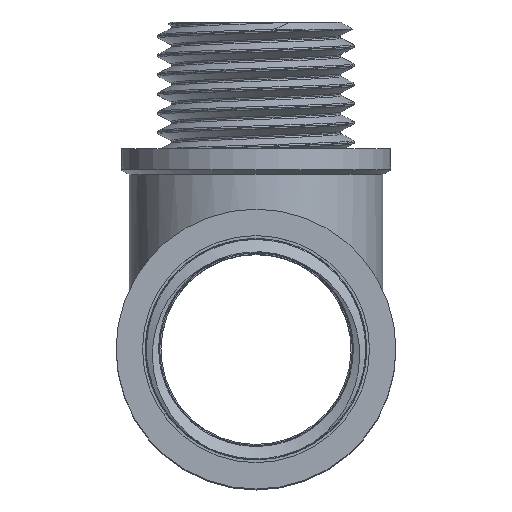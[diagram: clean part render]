
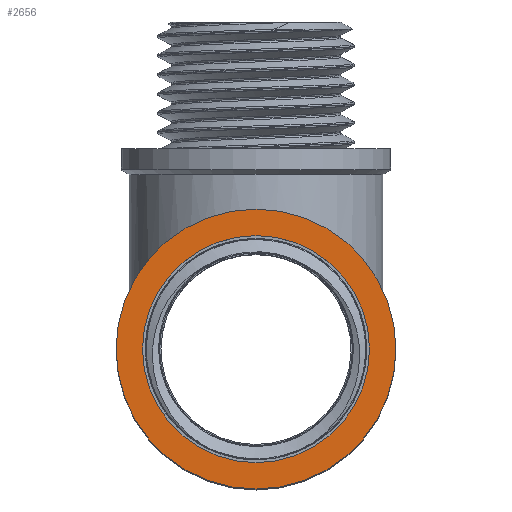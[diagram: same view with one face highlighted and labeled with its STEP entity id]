
A CAD part, top view. The second image highlights one B-rep face of the part: STEP entity #2656.
In plain terms, the highlighted planar face has unit normal (0, 0, 1).
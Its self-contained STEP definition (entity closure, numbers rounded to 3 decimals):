
#28=FACE_BOUND('',#543,.T.);
#289=PLANE('',#2878);
#385=FACE_OUTER_BOUND('',#542,.T.);
#542=EDGE_LOOP('',(#2151,#2152));
#543=EDGE_LOOP('',(#2153,#2154));
#1004=CIRCLE('',#2876,13.25);
#1005=CIRCLE('',#2877,13.25);
#1006=CIRCLE('',#2879,10.75);
#1007=CIRCLE('',#2880,10.75);
#1196=VERTEX_POINT('',#4621);
#1197=VERTEX_POINT('',#4622);
#1198=VERTEX_POINT('',#4627);
#1199=VERTEX_POINT('',#4628);
#1542=EDGE_CURVE('',#1196,#1197,#1004,.T.);
#1543=EDGE_CURVE('',#1197,#1196,#1005,.T.);
#1545=EDGE_CURVE('',#1198,#1199,#1006,.T.);
#1546=EDGE_CURVE('',#1199,#1198,#1007,.T.);
#2151=ORIENTED_EDGE('',*,*,#1542,.T.);
#2152=ORIENTED_EDGE('',*,*,#1543,.T.);
#2153=ORIENTED_EDGE('',*,*,#1545,.F.);
#2154=ORIENTED_EDGE('',*,*,#1546,.F.);
#2656=ADVANCED_FACE('',(#385,#28),#289,.T.);
#2876=AXIS2_PLACEMENT_3D('',#4623,#3347,#3348);
#2877=AXIS2_PLACEMENT_3D('',#4624,#3349,#3350);
#2878=AXIS2_PLACEMENT_3D('',#4626,#3352,#3353);
#2879=AXIS2_PLACEMENT_3D('',#4629,#3354,#3355);
#2880=AXIS2_PLACEMENT_3D('',#4630,#3356,#3357);
#3347=DIRECTION('center_axis',(0.,0.,1.));
#3348=DIRECTION('ref_axis',(1.,0.,0.));
#3349=DIRECTION('center_axis',(0.,0.,1.));
#3350=DIRECTION('ref_axis',(1.,0.,0.));
#3352=DIRECTION('center_axis',(0.,0.,1.));
#3353=DIRECTION('ref_axis',(1.,0.,0.));
#3354=DIRECTION('center_axis',(0.,0.,1.));
#3355=DIRECTION('ref_axis',(1.,0.,0.));
#3356=DIRECTION('center_axis',(0.,0.,1.));
#3357=DIRECTION('ref_axis',(1.,0.,0.));
#4621=CARTESIAN_POINT('',(0.,-13.25,26.));
#4622=CARTESIAN_POINT('',(0.,13.25,26.));
#4623=CARTESIAN_POINT('Origin',(0.,0.,26.));
#4624=CARTESIAN_POINT('Origin',(0.,0.,26.));
#4626=CARTESIAN_POINT('Origin',(0.,-10.75,26.));
#4627=CARTESIAN_POINT('',(0.,-10.75,26.));
#4628=CARTESIAN_POINT('',(0.,10.75,26.));
#4629=CARTESIAN_POINT('Origin',(0.,0.,26.));
#4630=CARTESIAN_POINT('Origin',(0.,0.,26.));
